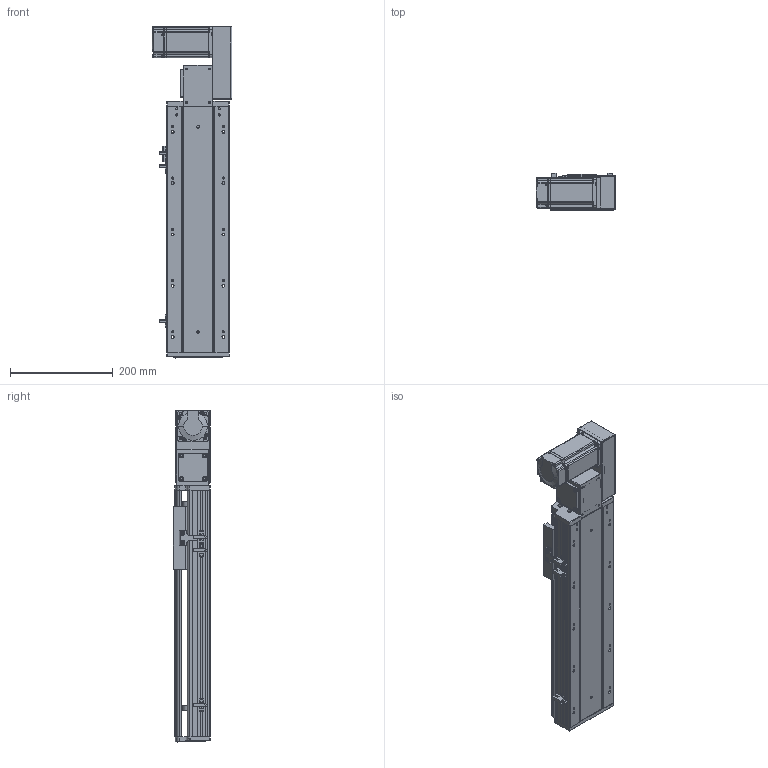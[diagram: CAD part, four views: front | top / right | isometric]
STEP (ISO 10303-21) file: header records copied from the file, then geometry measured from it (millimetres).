
FILE_DESCRIPTION (( 'STEP AP203' ), '1' );
FILE_NAME ('RY120-T-300-RK.SLDASM_250.step', '2021-03-01T03:52:27', ( '盈信电脑' ), ( '东莞市道滘镇水果街19号' ), 'SwSTEP 2.0', 'SolidWorks 2012', '' );
FILE_SCHEMA (( 'CONFIG_CONTROL_DESIGN' ));
Length unit declared in the file: millimetre
Products named in the file (17): RY120-T主同步轮轴承压盖; RY120-T-300-RK.SLDASM_250; 15; RY120-T蹟翐M4; RY120-T萇儂假蚾啣; RY120-T萇儂欶; RY120-T翋肮祭謫裔啣; 滅袉蝶18-10; RY120-T翋肮祭盓傅釱; 覜茼ん672; RY120-T肮祭湍揤踡輸1; RY120外置感应片(140共用）; RY120-T肮祭湍揤踡輸2; RY120綴裔啣; RY120-T-300-RK倰第菁釱_250; RY120-T-300-RK倰第奻裔啣_250; RY120肮祭湍臏賑輸
Assembly tree (22 placements, depth 2):
  RY120-T-300-RK.SLDASM_250
    RY120-T-300-RK倰第菁釱_250
    RY120-T-300-RK倰第奻裔啣_250
    RY120肮祭湍臏賑輸
    RY120綴裔啣
    覜茼ん672  x3
    RY120外置感应片(140共用）
    RY120-T肮祭湍揤踡輸1
    RY120-T肮祭湍揤踡輸2
    RY120-T翋肮祭盓傅釱
    滅袉蝶18-10  x2
    RY120-T翋肮祭謫裔啣
    15
    RY120-T萇儂假蚾啣
    RY120-T蹟翐M4  x4
    RY120-T萇儂欶
    RY120-T主同步轮轴承压盖
Bounding box: 155.5 x 73 x 647.5 mm (x, y, z)
Volume: 1973902.2 mm3; surface area: 700092.8 mm2
Topology: 23 solids, 23 shells, 2636 faces, 7168 edges, 4622 vertices
Faces by surface type: plane 1396, cylinder 954, cone 197, bspline 89
Entity records: 83221 total; most frequent: CARTESIAN_POINT 20732, ORIENTED_EDGE 12856, DIRECTION 12182, EDGE_CURVE 6428, VERTEX_POINT 4209, VECTOR 4120, LINE 4120, AXIS2_PLACEMENT_3D 4031
